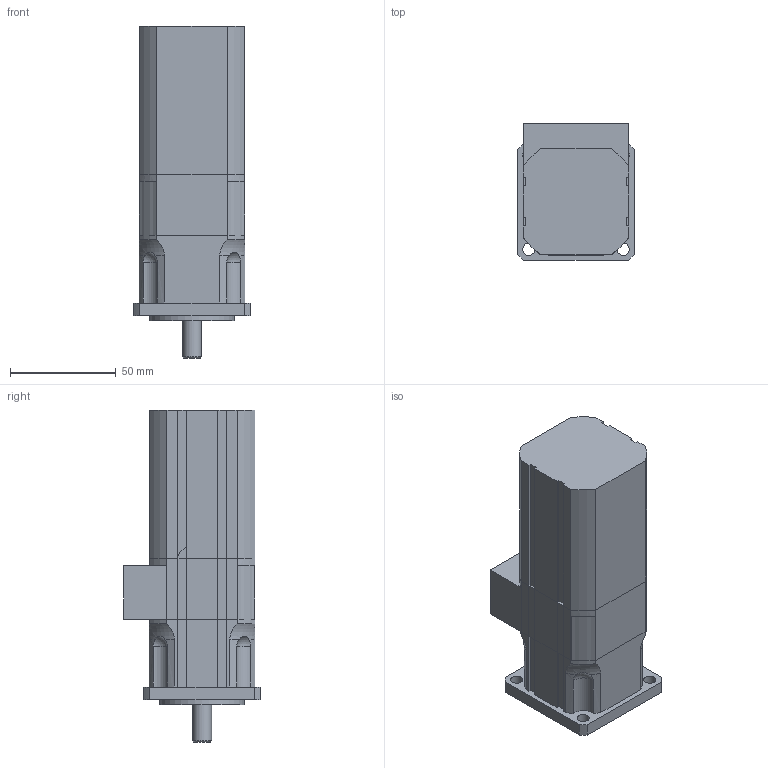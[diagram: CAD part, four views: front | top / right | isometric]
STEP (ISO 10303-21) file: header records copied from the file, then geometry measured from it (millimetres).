
FILE_DESCRIPTION(/* description */ ('Alibre Inc.'),/* implementation_level */ '2;1');
FILE_NAME(/* name */ 'export0',/* time_stamp */ '2011-03-11T10:31:08+01:00',/* author */ (''),/* organization */ (''),/* preprocessor_version */ 'ST-DEVELOPER v12',/* originating_system */ 'Alibre',/* authorisation */ '');
FILE_SCHEMA (('ALIBRE_SCHEMA','CONFIG_CONTROL_DESIGN'));
Length unit declared in the file: millimetre
Products named in the file (4): ID_1
Bounding box: 55 x 64.5 x 157 mm (x, y, z)
Volume: 417910.6 mm3; surface area: 52252 mm2
Topology: 3 solids, 5 shells, 156 faces, 392 edges, 255 vertices
Faces by surface type: plane 79, cylinder 46, torus 18, bspline 8, sphere 4, cone 1
Full cylindrical faces by diameter (mm): 9 x1, 12 x1, 20 x3, 21.4 x1, 24 x2, 26 x1, 40 x1
Entity records: 17176 total; most frequent: CARTESIAN_POINT 4974, ORIENTED_EDGE 1970, DIRECTION 1869, EDGE_CURVE 985, AXIS2_PLACEMENT_3D 729, VERTEX_POINT 669, VECTOR 643, LINE 605
